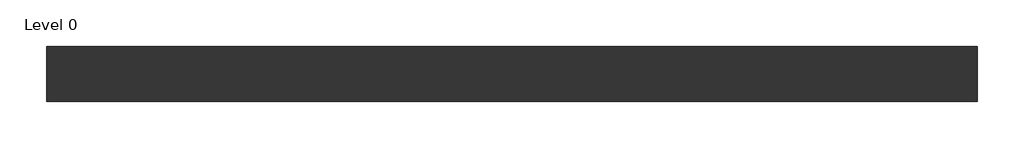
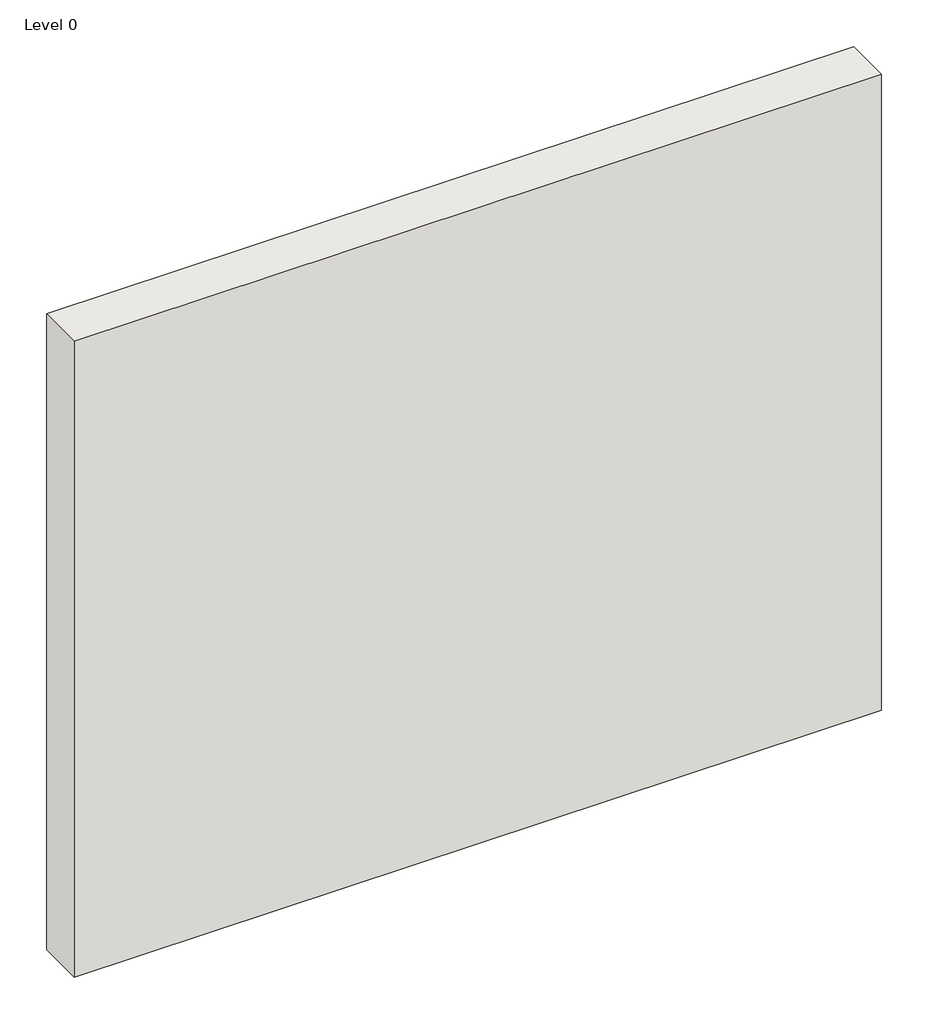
# One storey: 1 wall.
"""IFC4 building model written with IfcOpenShell, lengths in millimetres."""

from ifc_helpers import new_model, si_unit, origin, origin_with_axes, place, context, project, spatial, polyline, outline, extrude, element, save

model = new_model("IFC4")

# Units and contexts
model_context = context("Model", 3, world=origin())
ifc_project = project(units=[si_unit("LENGTHUNIT", "METRE", prefix="MILLI")], contexts=[model_context])

# Site, building, storey
site = spatial("IfcSite", under=ifc_project)
building = spatial("IfcBuilding", under=site)
storey = spatial("IfcBuildingStorey", under=building, Name="Level 0", Elevation=0.0)

# Wall
placement = place(None, origin())
element("IfcWall", 1, ObjectType="A306009 - ShaftWall", at=placement, inside=storey, context=model_context, shape_type="SweptSolid", body=[
    extrude(outline(polyline([(2116.0807354, 504.7205641), (-883.9192646, 504.7205641), (-883.9192646, 682.7205641), (2116.0807354, 682.7205641), (2116.0807354, 504.7205641)])), origin_with_axes(), (0.0, 0.0, 1.0), 2500.0),
])

save(model, "model.ifc")
